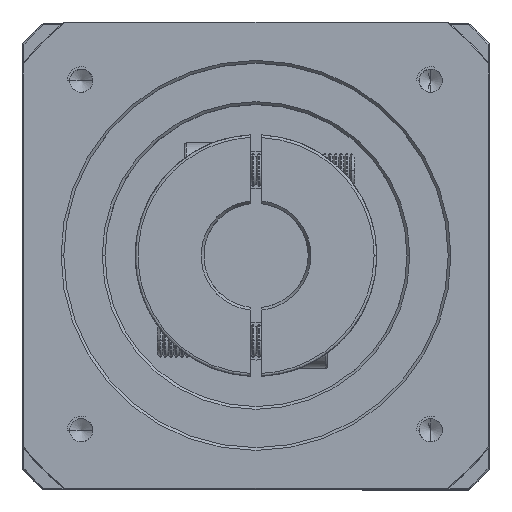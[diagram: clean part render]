
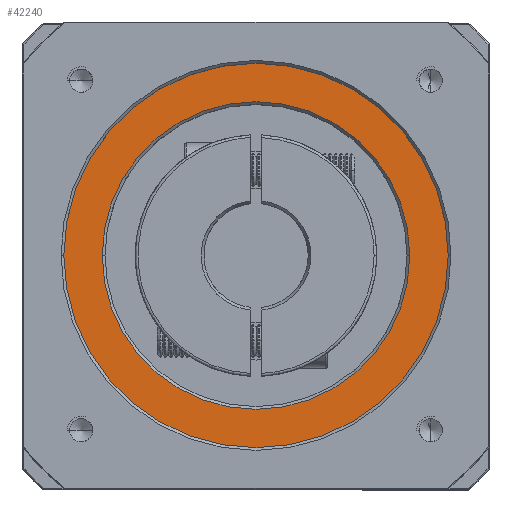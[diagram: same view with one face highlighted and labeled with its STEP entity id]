
A CAD part, top view. The second image highlights one B-rep face of the part: STEP entity #42240.
In plain terms, the highlighted planar face has unit normal (0, 0, 1).
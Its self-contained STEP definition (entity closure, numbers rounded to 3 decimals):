
#688 = CARTESIAN_POINT ( 'NONE',  ( -61.569, 30.666, 21.372 ) ) ;
#1046 = AXIS2_PLACEMENT_3D ( 'NONE', #69342, #20437, #77472 ) ;
#3919 = VERTEX_POINT ( 'NONE', #92324 ) ;
#4694 = FACE_BOUND ( 'NONE', #94393, .T. ) ;
#6228 = PLANE ( 'NONE',  #10958 ) ;
#7604 = CARTESIAN_POINT ( 'NONE',  ( -89.569, 30.666, 21.372 ) ) ;
#9612 = CARTESIAN_POINT ( 'NONE',  ( -89.569, 30.666, 21.372 ) ) ;
#10958 = AXIS2_PLACEMENT_3D ( 'NONE', #96146, #47599, #104236 ) ;
#11832 = EDGE_CURVE ( 'NONE', #3919, #52745, #29251, .T. ) ;
#13360 = CARTESIAN_POINT ( 'NONE',  ( -117.569, 30.666, 21.372 ) ) ;
#13789 = AXIS2_PLACEMENT_3D ( 'NONE', #7604, #64905, #15913 ) ;
#15913 = DIRECTION ( 'NONE',  ( 1., 0., 0. ) ) ;
#17961 = DIRECTION ( 'NONE',  ( 1., 0., 0. ) ) ;
#20437 = DIRECTION ( 'NONE',  ( 0., 0., -1. ) ) ;
#29251 = CIRCLE ( 'NONE', #13789, 35. ) ;
#36089 = CARTESIAN_POINT ( 'NONE',  ( -89.569, 30.666, 21.372 ) ) ;
#37292 = CIRCLE ( 'NONE', #96451, 35. ) ;
#37432 = AXIS2_PLACEMENT_3D ( 'NONE', #36089, #92888, #44367 ) ;
#42240 = ADVANCED_FACE ( 'NONE', ( #45905, #4694 ), #6228, .T. ) ;
#44367 = DIRECTION ( 'NONE',  ( 1., 0., 0. ) ) ;
#45905 = FACE_OUTER_BOUND ( 'NONE', #50472, .T. ) ;
#47599 = DIRECTION ( 'NONE',  ( 0., 0., 1. ) ) ;
#50472 = EDGE_LOOP ( 'NONE', ( #82465, #92618 ) ) ;
#51070 = CIRCLE ( 'NONE', #37432, 28. ) ;
#52745 = VERTEX_POINT ( 'NONE', #76083 ) ;
#55145 = CIRCLE ( 'NONE', #1046, 28. ) ;
#55279 = VERTEX_POINT ( 'NONE', #688 ) ;
#62221 = ORIENTED_EDGE ( 'NONE', *, *, #73723, .T. ) ;
#64905 = DIRECTION ( 'NONE',  ( 0., 0., 1. ) ) ;
#66901 = DIRECTION ( 'NONE',  ( 0., 0., 1. ) ) ;
#69342 = CARTESIAN_POINT ( 'NONE',  ( -89.569, 30.666, 21.372 ) ) ;
#72105 = VERTEX_POINT ( 'NONE', #13360 ) ;
#73723 = EDGE_CURVE ( 'NONE', #55279, #72105, #51070, .T. ) ;
#76083 = CARTESIAN_POINT ( 'NONE',  ( -124.569, 30.666, 21.372 ) ) ;
#77472 = DIRECTION ( 'NONE',  ( 1., 0., 0. ) ) ;
#81587 = EDGE_CURVE ( 'NONE', #72105, #55279, #55145, .T. ) ;
#82465 = ORIENTED_EDGE ( 'NONE', *, *, #11832, .T. ) ;
#92324 = CARTESIAN_POINT ( 'NONE',  ( -54.569, 30.666, 21.372 ) ) ;
#92618 = ORIENTED_EDGE ( 'NONE', *, *, #105813, .T. ) ;
#92888 = DIRECTION ( 'NONE',  ( 0., 0., -1. ) ) ;
#93851 = ORIENTED_EDGE ( 'NONE', *, *, #81587, .T. ) ;
#94393 = EDGE_LOOP ( 'NONE', ( #62221, #93851 ) ) ;
#96146 = CARTESIAN_POINT ( 'NONE',  ( -89.569, 30.666, 21.372 ) ) ;
#96451 = AXIS2_PLACEMENT_3D ( 'NONE', #9612, #66901, #17961 ) ;
#104236 = DIRECTION ( 'NONE',  ( 1., 0., 0. ) ) ;
#105813 = EDGE_CURVE ( 'NONE', #52745, #3919, #37292, .T. ) ;
